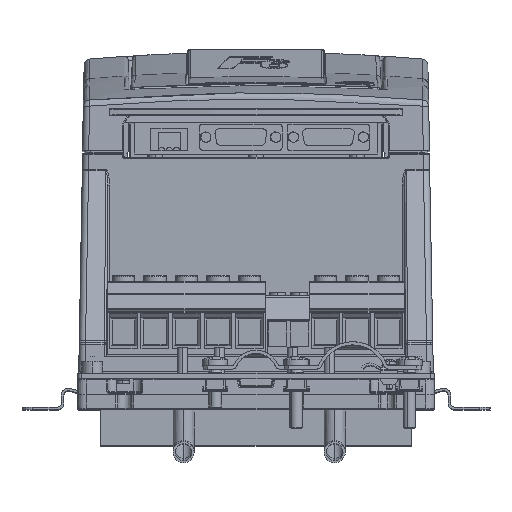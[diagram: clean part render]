
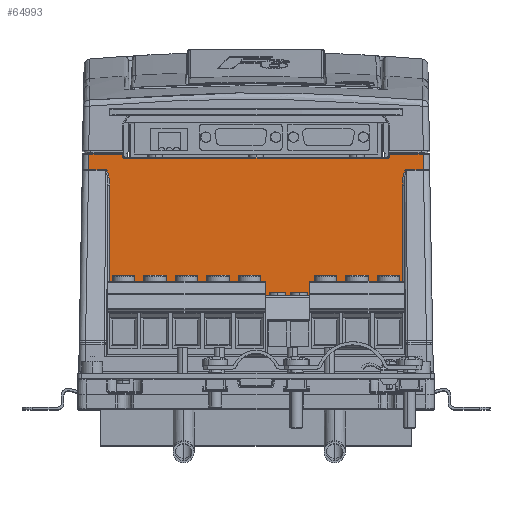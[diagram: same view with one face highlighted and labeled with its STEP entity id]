
A CAD part, top view. The second image highlights one B-rep face of the part: STEP entity #64993.
In plain terms, the highlighted planar face has unit normal (0, 0, 1).
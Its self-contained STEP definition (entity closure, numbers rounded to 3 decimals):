
#359 = CARTESIAN_POINT ( 'NONE',  ( 69.763, -47.109, 124. ) ) ;
#392 = DIRECTION ( 'NONE',  ( -1., 0., 0. ) ) ;
#2970 = CARTESIAN_POINT ( 'NONE',  ( 69.763, 33.786, 124. ) ) ;
#3002 = VECTOR ( 'NONE', #72390, 1000. ) ;
#3736 = VERTEX_POINT ( 'NONE', #47677 ) ;
#4413 = CARTESIAN_POINT ( 'NONE',  ( -79.633, 48.6, 124. ) ) ;
#6870 = CARTESIAN_POINT ( 'NONE',  ( -71.729, 41.234, 124. ) ) ;
#7753 = VERTEX_POINT ( 'NONE', #66834 ) ;
#9438 = VERTEX_POINT ( 'NONE', #29712 ) ;
#10130 = ORIENTED_EDGE ( 'NONE', *, *, #93594, .T. ) ;
#10300 = DIRECTION ( 'NONE',  ( -0.018, 1., 0. ) ) ;
#11442 = CARTESIAN_POINT ( 'NONE',  ( 69.763, 33.786, 124. ) ) ;
#11683 = VECTOR ( 'NONE', #117400, 1000. ) ;
#12561 = CARTESIAN_POINT ( 'NONE',  ( 71.729, 41.234, 124. ) ) ;
#12675 = EDGE_CURVE ( 'NONE', #111112, #54578, #13500, .T. ) ;
#12755 = ORIENTED_EDGE ( 'NONE', *, *, #77629, .T. ) ;
#13129 = VERTEX_POINT ( 'NONE', #11442 ) ;
#13191 = DIRECTION ( 'NONE',  ( -1., 0., 0. ) ) ;
#13367 = LINE ( 'NONE', #52479, #3002 ) ;
#13500 = LINE ( 'NONE', #23121, #117952 ) ;
#13741 = VERTEX_POINT ( 'NONE', #105536 ) ;
#15662 = ORIENTED_EDGE ( 'NONE', *, *, #59376, .F. ) ;
#16056 = CARTESIAN_POINT ( 'NONE',  ( 79.765, 41.234, 124. ) ) ;
#16652 = CARTESIAN_POINT ( 'NONE',  ( 71.729, 41.234, 124. ) ) ;
#17867 = EDGE_CURVE ( 'NONE', #74304, #45561, #57401, .T. ) ;
#17998 = CARTESIAN_POINT ( 'NONE',  ( -63.5, 48.6, 124. ) ) ;
#18519 = DIRECTION ( 'NONE',  ( -1., 0., 0. ) ) ;
#20324 = EDGE_LOOP ( 'NONE', ( #15662, #46914, #41653, #39297, #83428, #56866, #12755, #73466, #89570, #59288, #39414, #104778, #77010, #113215, #116779, #10130 ) ) ;
#23121 = CARTESIAN_POINT ( 'NONE',  ( -78.911, 89.115, 124. ) ) ;
#23894 = EDGE_CURVE ( 'NONE', #7753, #45561, #71111, .T. ) ;
#24195 = VERTEX_POINT ( 'NONE', #47235 ) ;
#29712 = CARTESIAN_POINT ( 'NONE',  ( 63.5, 48.6, 124. ) ) ;
#29767 = CARTESIAN_POINT ( 'NONE',  ( -62.5, 46.6, 124. ) ) ;
#32902 = VERTEX_POINT ( 'NONE', #359 ) ;
#33080 = CARTESIAN_POINT ( 'NONE',  ( -69.763, 89.215, 124. ) ) ;
#34824 = EDGE_CURVE ( 'NONE', #116826, #9438, #77398, .T. ) ;
#35095 =( BOUNDED_CURVE ( )  B_SPLINE_CURVE ( 3, ( #2970, #90180, #79970, #12561 ),
 .UNSPECIFIED., .F., .F. ) 
 B_SPLINE_CURVE_WITH_KNOTS ( ( 4, 4 ),
 ( 4.73, 6.284 ),
 .UNSPECIFIED. ) 
 CURVE ( )  GEOMETRIC_REPRESENTATION_ITEM ( )  RATIONAL_B_SPLINE_CURVE ( ( 1., 0.809, 0.809, 1. ) ) 
 REPRESENTATION_ITEM ( '' )  );
#35684 = EDGE_CURVE ( 'NONE', #24195, #65683, #111354, .T. ) ;
#35967 = LINE ( 'NONE', #48081, #105248 ) ;
#36182 = LINE ( 'NONE', #45785, #63694 ) ;
#37153 = CARTESIAN_POINT ( 'NONE',  ( -62.5, 47.6, 124. ) ) ;
#38906 = VERTEX_POINT ( 'NONE', #16652 ) ;
#39289 = AXIS2_PLACEMENT_3D ( 'NONE', #60706, #70284, #392 ) ;
#39297 = ORIENTED_EDGE ( 'NONE', *, *, #119314, .T. ) ;
#39414 = ORIENTED_EDGE ( 'NONE', *, *, #57064, .T. ) ;
#39500 = CARTESIAN_POINT ( 'NONE',  ( -84.5, 48.6, 124. ) ) ;
#41653 = ORIENTED_EDGE ( 'NONE', *, *, #23894, .F. ) ;
#42718 = CARTESIAN_POINT ( 'NONE',  ( -84.5, 48.6, 124. ) ) ;
#43953 = EDGE_CURVE ( 'NONE', #13741, #24195, #101047, .T. ) ;
#43969 = LINE ( 'NONE', #42718, #58597 ) ;
#45561 = VERTEX_POINT ( 'NONE', #29767 ) ;
#45785 = CARTESIAN_POINT ( 'NONE',  ( 69.763, 89.215, 124. ) ) ;
#45852 = CARTESIAN_POINT ( 'NONE',  ( -84.5, 89.215, 124. ) ) ;
#45977 = CARTESIAN_POINT ( 'NONE',  ( -70.573, 41.234, 124. ) ) ;
#46914 = ORIENTED_EDGE ( 'NONE', *, *, #17867, .T. ) ;
#47235 = CARTESIAN_POINT ( 'NONE',  ( -69.763, 33.786, 124. ) ) ;
#47677 = CARTESIAN_POINT ( 'NONE',  ( 63.5, 47.6, 124. ) ) ;
#48081 = CARTESIAN_POINT ( 'NONE',  ( -84.5, -47.109, 124. ) ) ;
#48635 = DIRECTION ( 'NONE',  ( 0., 0., 1. ) ) ;
#48738 = CARTESIAN_POINT ( 'NONE',  ( -63.5, 89.215, 124. ) ) ;
#49441 = LINE ( 'NONE', #89229, #99348 ) ;
#49729 = DIRECTION ( 'NONE',  ( -1., 0., 0. ) ) ;
#52479 = CARTESIAN_POINT ( 'NONE',  ( 63.5, 89.215, 124. ) ) ;
#54079 = EDGE_CURVE ( 'NONE', #38906, #109790, #116262, .T. ) ;
#54210 = VECTOR ( 'NONE', #116872, 1000. ) ;
#54578 = VERTEX_POINT ( 'NONE', #122997 ) ;
#56278 = CARTESIAN_POINT ( 'NONE',  ( -69.763, 38.164, 124. ) ) ;
#56866 = ORIENTED_EDGE ( 'NONE', *, *, #12675, .T. ) ;
#57064 = EDGE_CURVE ( 'NONE', #32902, #13129, #36182, .T. ) ;
#57132 = DIRECTION ( 'NONE',  ( -1., 0., 0. ) ) ;
#57401 = LINE ( 'NONE', #88749, #118648 ) ;
#58060 = CARTESIAN_POINT ( 'NONE',  ( 79.633, 48.6, 124. ) ) ;
#58597 = VECTOR ( 'NONE', #13191, 1000. ) ;
#59288 = ORIENTED_EDGE ( 'NONE', *, *, #60709, .F. ) ;
#59376 = EDGE_CURVE ( 'NONE', #74304, #3736, #82361, .T. ) ;
#60706 = CARTESIAN_POINT ( 'NONE',  ( 62.5, 47.6, 124. ) ) ;
#60709 = EDGE_CURVE ( 'NONE', #32902, #65683, #35967, .T. ) ;
#60878 = AXIS2_PLACEMENT_3D ( 'NONE', #37153, #48635, #18519 ) ;
#62968 = EDGE_CURVE ( 'NONE', #13129, #38906, #35095, .T. ) ;
#63694 = VECTOR ( 'NONE', #104820, 1000. ) ;
#64993 = ADVANCED_FACE ( 'NONE', ( #66387 ), #124724, .F. ) ;
#65683 = VERTEX_POINT ( 'NONE', #82188 ) ;
#66387 = FACE_OUTER_BOUND ( 'NONE', #20324, .T. ) ;
#66834 = CARTESIAN_POINT ( 'NONE',  ( -63.5, 47.6, 124. ) ) ;
#67763 = CARTESIAN_POINT ( 'NONE',  ( -69.763, 33.786, 124. ) ) ;
#68261 = DIRECTION ( 'NONE',  ( -1., 0., 0. ) ) ;
#70284 = DIRECTION ( 'NONE',  ( 0., 0., 1. ) ) ;
#71111 = CIRCLE ( 'NONE', #60878, 1. ) ;
#72390 = DIRECTION ( 'NONE',  ( 0., -1., 0. ) ) ;
#73466 = ORIENTED_EDGE ( 'NONE', *, *, #43953, .T. ) ;
#74304 = VERTEX_POINT ( 'NONE', #96753 ) ;
#77010 = ORIENTED_EDGE ( 'NONE', *, *, #54079, .T. ) ;
#77398 = LINE ( 'NONE', #39500, #103476 ) ;
#77629 = EDGE_CURVE ( 'NONE', #54578, #13741, #49441, .T. ) ;
#78323 = CARTESIAN_POINT ( 'NONE',  ( 78.857, 92.127, 124. ) ) ;
#79970 = CARTESIAN_POINT ( 'NONE',  ( 70.573, 41.234, 124. ) ) ;
#82188 = CARTESIAN_POINT ( 'NONE',  ( -69.763, -47.109, 124. ) ) ;
#82361 = CIRCLE ( 'NONE', #39289, 1. ) ;
#82481 = VERTEX_POINT ( 'NONE', #17998 ) ;
#83335 = AXIS2_PLACEMENT_3D ( 'NONE', #45852, #84991, #124092 ) ;
#83428 = ORIENTED_EDGE ( 'NONE', *, *, #96025, .T. ) ;
#84991 = DIRECTION ( 'NONE',  ( 0., 0., -1. ) ) ;
#88749 = CARTESIAN_POINT ( 'NONE',  ( 49.191, 46.6, 124. ) ) ;
#89229 = CARTESIAN_POINT ( 'NONE',  ( -71.729, 41.234, 124. ) ) ;
#89340 = VECTOR ( 'NONE', #102988, 1000. ) ;
#89570 = ORIENTED_EDGE ( 'NONE', *, *, #35684, .T. ) ;
#90180 = CARTESIAN_POINT ( 'NONE',  ( 69.763, 38.164, 124. ) ) ;
#90922 = EDGE_CURVE ( 'NONE', #109790, #116826, #108484, .T. ) ;
#93594 = EDGE_CURVE ( 'NONE', #9438, #3736, #13367, .T. ) ;
#96025 = EDGE_CURVE ( 'NONE', #82481, #111112, #43969, .T. ) ;
#96350 = CARTESIAN_POINT ( 'NONE',  ( 79.767, 41.234, 124. ) ) ;
#96753 = CARTESIAN_POINT ( 'NONE',  ( 62.5, 46.6, 124. ) ) ;
#99348 = VECTOR ( 'NONE', #107899, 1000. ) ;
#101047 =( BOUNDED_CURVE ( )  B_SPLINE_CURVE ( 3, ( #6870, #45977, #56278, #67763 ),
 .UNSPECIFIED., .F., .T. ) 
 B_SPLINE_CURVE_WITH_KNOTS ( ( 4, 4 ),
 ( 6.282, 7.836 ),
 .UNSPECIFIED. ) 
 CURVE ( )  GEOMETRIC_REPRESENTATION_ITEM ( )  RATIONAL_B_SPLINE_CURVE ( ( 1., 0.809, 0.809, 1. ) ) 
 REPRESENTATION_ITEM ( '' )  );
#102988 = DIRECTION ( 'NONE',  ( 0., -1., 0. ) ) ;
#103476 = VECTOR ( 'NONE', #49729, 1000. ) ;
#104778 = ORIENTED_EDGE ( 'NONE', *, *, #62968, .T. ) ;
#104820 = DIRECTION ( 'NONE',  ( 0., 1., 0. ) ) ;
#105248 = VECTOR ( 'NONE', #57132, 1000. ) ;
#105536 = CARTESIAN_POINT ( 'NONE',  ( -71.729, 41.234, 124. ) ) ;
#107819 = LINE ( 'NONE', #48738, #11683 ) ;
#107899 = DIRECTION ( 'NONE',  ( 1., 0., 0. ) ) ;
#108484 = LINE ( 'NONE', #78323, #111083 ) ;
#109790 = VERTEX_POINT ( 'NONE', #16056 ) ;
#111083 = VECTOR ( 'NONE', #10300, 1000. ) ;
#111112 = VERTEX_POINT ( 'NONE', #4413 ) ;
#111354 = LINE ( 'NONE', #33080, #89340 ) ;
#113215 = ORIENTED_EDGE ( 'NONE', *, *, #90922, .T. ) ;
#116262 = LINE ( 'NONE', #96350, #54210 ) ;
#116779 = ORIENTED_EDGE ( 'NONE', *, *, #34824, .T. ) ;
#116826 = VERTEX_POINT ( 'NONE', #58060 ) ;
#116872 = DIRECTION ( 'NONE',  ( 1., 0., 0. ) ) ;
#117400 = DIRECTION ( 'NONE',  ( 0., 1., 0. ) ) ;
#117952 = VECTOR ( 'NONE', #120599, 1000. ) ;
#118648 = VECTOR ( 'NONE', #68261, 1000. ) ;
#119314 = EDGE_CURVE ( 'NONE', #7753, #82481, #107819, .T. ) ;
#120599 = DIRECTION ( 'NONE',  ( -0.018, -1., 0. ) ) ;
#122997 = CARTESIAN_POINT ( 'NONE',  ( -79.765, 41.234, 124. ) ) ;
#124092 = DIRECTION ( 'NONE',  ( -1., 0., 0. ) ) ;
#124724 = PLANE ( 'NONE',  #83335 ) ;
